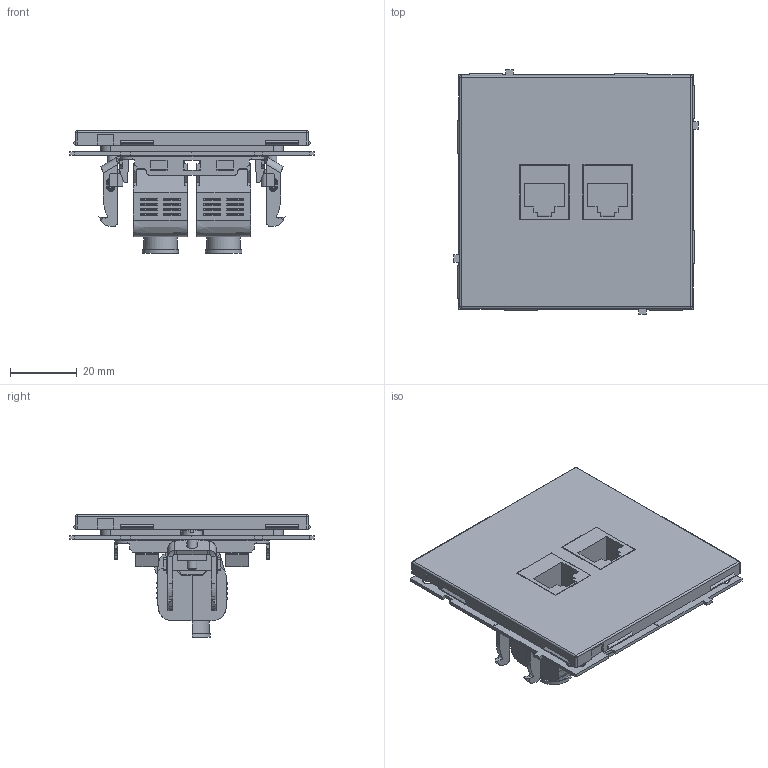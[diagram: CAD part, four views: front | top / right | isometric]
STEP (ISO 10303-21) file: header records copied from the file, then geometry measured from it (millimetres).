
FILE_DESCRIPTION (( 'STEP AP203' ), '1' );
FILE_NAME ('7015664.STEP', '2025-12-05T07:53:04', ( '' ), ( '' ), 'SwSTEP 2.0', 'SolidWorks 2022', '' );
FILE_SCHEMA (( 'CONFIG_CONTROL_DESIGN' ));
Length unit declared in the file: millimetre
Products named in the file (1): 7015664
Bounding box: 73.5 x 73.5 x 36.9 mm (x, y, z)
Volume: 43546.2 mm3; surface area: 28064.4 mm2
Topology: 5 solids, 5 shells, 1277 faces, 3370 edges, 2132 vertices
Faces by surface type: plane 829, cylinder 354, torus 38, cone 28, bspline 24, sphere 4
Full cylindrical faces by diameter (mm): 3 x4, 3.3 x2, 8.5 x2
Entity records: 39647 total; most frequent: CARTESIAN_POINT 8410, ORIENTED_EDGE 6680, DIRECTION 6146, EDGE_CURVE 3340, VECTOR 2526, LINE 2526, VERTEX_POINT 2120, AXIS2_PLACEMENT_3D 1810
